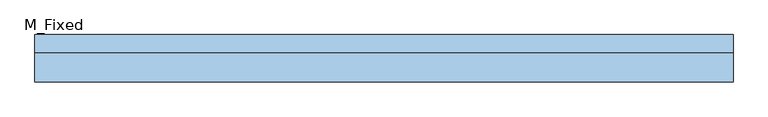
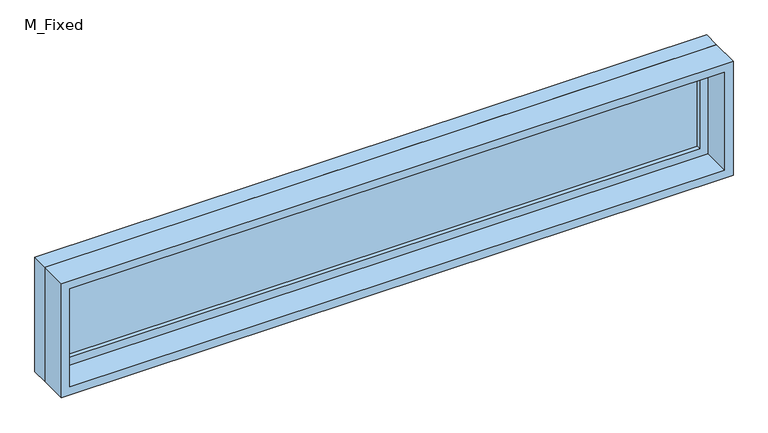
"""IFC4 building model written with IfcOpenShell, lengths in millimetres: window geometry, M_Fixed : 0.60*2.00 2."""

from ifc_helpers import new_model, si_unit, frame, origin, place, context, project, spatial, polyline, outline, extrude, source, transform, mapped, element, save


def m_fixed_2bd9e5b5(model_context):
    return source(origin(), model_context, "Body", "SweptSolid", [
        extrude(outline(polyline([(-1187.0, 63.0), (1187.0, 63.0), (1187.0, 51.0), (-1187.0, 51.0), (-1187.0, 63.0)])), frame((0.0, 0.0, 368.0), z_axis=(0.0, 0.0, 1.0), x_axis=(1.0, 0.0, 0.0)), (0.0, 0.0, 1.0), 324.0),
        extrude(outline(polyline([(736.0, -1231.0), (324.0, -1231.0), (324.0, 1231.0), (736.0, 1231.0), (736.0, -1231.0)]), holes=[polyline([(692.0, -1187.0), (692.0, 1187.0), (368.0, 1187.0), (368.0, -1187.0), (692.0, -1187.0)])]), frame((0.0, 35.0, 0.0), z_axis=(0.0, 1.0, 0.0), x_axis=(0.0, 0.0, 1.0)), (0.0, 0.0, 1.0), 44.0),
        extrude(outline(polyline([(755.0, -1250.0), (305.0, -1250.0), (305.0, 1250.0), (755.0, 1250.0), (755.0, -1250.0)]), holes=[polyline([(736.0, -1231.0), (736.0, 1231.0), (324.0, 1231.0), (324.0, -1231.0), (736.0, -1231.0)])]), frame((0.0, 35.0, 0.0), z_axis=(0.0, 1.0, 0.0), x_axis=(0.0, 0.0, 1.0)), (0.0, 0.0, 1.0), 63.0),
        extrude(outline(polyline([(755.0, -1250.0), (305.0, -1250.0), (305.0, 1250.0), (755.0, 1250.0), (755.0, -1250.0)]), holes=[polyline([(723.0, -1218.0), (723.0, 1218.0), (337.0, 1218.0), (337.0, -1218.0), (723.0, -1218.0)])]), frame((0.0, -72.0, 0.0), z_axis=(0.0, 1.0, 0.0), x_axis=(0.0, 0.0, 1.0)), (0.0, 0.0, 1.0), 107.0),
    ])


if __name__ == "__main__":
    model = new_model("IFC4")
    model_context = context("Model", 3, world=origin())
    ifc_project = project(units=[si_unit("LENGTHUNIT", "METRE", prefix="MILLI")], contexts=[model_context])
    site = spatial("IfcSite", under=ifc_project)
    building = spatial("IfcBuilding", under=site)
    placement = place(None, origin())
    m_fixed_shape = m_fixed_2bd9e5b5(model_context)
    element("IfcWindow", 1, ObjectType="M_Fixed : 0.60*2.00 2", at=placement, inside=building, context=model_context, shape_type="MappedRepresentation", body=[
        mapped(m_fixed_shape, transform((0.0, 0.0, 0.0), x_axis=(1.0, 0.0, 0.0), y_axis=(0.0, 1.0, 0.0), z_axis=(0.0, 0.0, 1.0))),
    ])
    save(model, "model.ifc")
